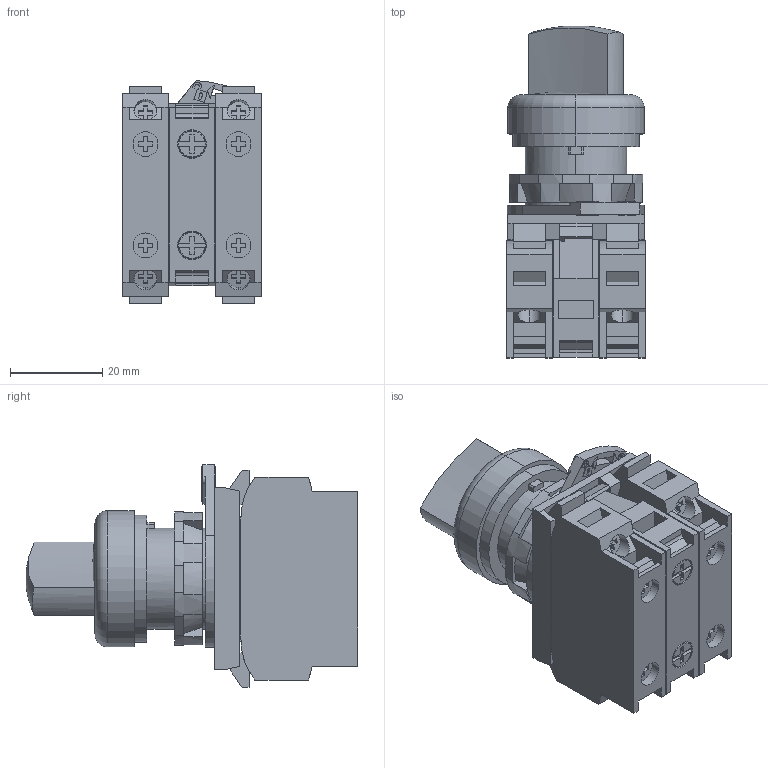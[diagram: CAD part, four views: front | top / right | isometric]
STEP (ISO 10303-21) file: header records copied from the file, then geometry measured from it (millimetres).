
FILE_DESCRIPTION (( 'STEP AP214' ), '1' );
FILE_NAME ('ZF_STEP_E2_AC-DXBC2267.step', '2015-02-02T14:38:13', ( 'utente' ), ( 'Microsoft' ), 'SwSTEP 2.0', 'SolidWorks 2014', '' );
FILE_SCHEMA (( 'AUTOMOTIVE_DESIGN' ));
Length unit declared in the file: millimetre
Products named in the file (8): ZF_STEP_E2_CP02GxV1_A12; ZF_STEP_E2_1BAC11_A10; ZF_STEP_E2_xSE14xVxxxxx_A10; ZF_STEP_VE_GFx2xA_21008; ZF_STEP_E2_xSE14xVxxx_A10; ZF_STEP_E2_AC-DXBC2267; ZF_STEP_E2_LPxxxxx_A10; ZF_STEP_E2_CP20GxV1_A12
Assembly tree (7 placements, depth 3):
  ZF_STEP_E2_AC-DXBC2267
    ZF_STEP_E2_xSE14xVxxxxx_A10
      ZF_STEP_E2_xSE14xVxxx_A10
      ZF_STEP_VE_GFx2xA_21008
    ZF_STEP_E2_1BAC11_A10
    ZF_STEP_E2_CP02GxV1_A12
    ZF_STEP_E2_CP20GxV1_A12
    ZF_STEP_E2_LPxxxxx_A10
Bounding box: 30.1 x 72.07 x 48.38 mm (x, y, z)
Volume: 49565 mm3; surface area: 24448.2 mm2
Topology: 7 solids, 7 shells, 680 faces, 1850 edges, 1226 vertices
Faces by surface type: plane 558, cylinder 98, cone 11, torus 9, sphere 4
Entity records: 21868 total; most frequent: CARTESIAN_POINT 3951, ORIENTED_EDGE 3696, DIRECTION 3460, EDGE_CURVE 1848, VECTOR 1530, LINE 1530, VERTEX_POINT 1226, AXIS2_PLACEMENT_3D 965
